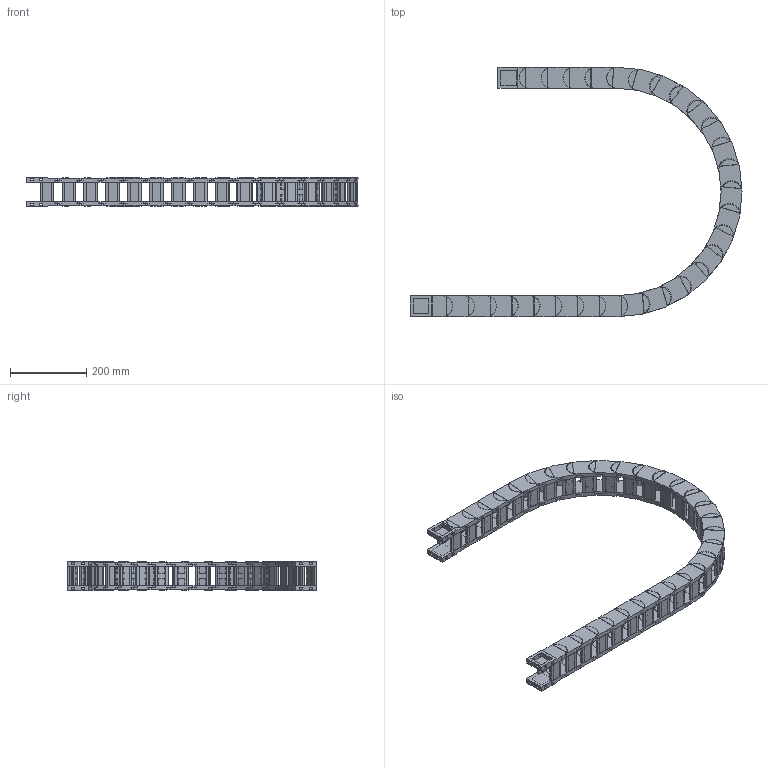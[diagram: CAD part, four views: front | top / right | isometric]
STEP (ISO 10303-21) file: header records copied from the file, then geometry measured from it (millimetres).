
FILE_DESCRIPTION((''),'2;1');
FILE_NAME('HD35-R300-ZPT_ASM','2022-06-17T15:57:11',('admin'),(''),'CREO PARAMETRIC BY PTC INC, 2021164','CREO PARAMETRIC BY PTC INC, 2021164','');
FILE_SCHEMA(('CONFIG_CONTROL_DESIGN','GEOMETRIC_VALIDATION_PROPERTIES_MIM'));
Length unit declared in the file: millimetre
Products named in the file (6): HD35; 35-600001; HD35_ASM; 35-TL_11; 35-WL; HD35-R300-ZPT_ASM
Assembly tree (34 placements, depth 3):
  HD35-R300-ZPT_ASM
    HD35_ASM  x28
      HD35
      35-600001
    35-TL_11
    35-WL
    35-600001  x2
Bounding box: 872.5 x 655 x 78.1 mm (x, y, z)
Volume: 3263752.8 mm3; surface area: 1235620.6 mm2
Topology: 120 solids, 120 shells, 2218 faces, 5906 edges, 4052 vertices
Faces by surface type: plane 1518, cylinder 700
Entity records: 9527 total; most frequent: DIRECTION 1442, CARTESIAN_POINT 1432, ORIENTED_EDGE 1300, EDGE_CURVE 650, AXIS2_PLACEMENT_3D 516, VERTEX_POINT 440, VECTOR 410, LINE 410
